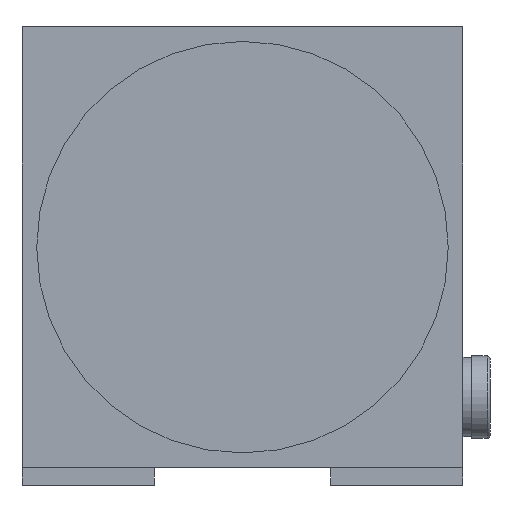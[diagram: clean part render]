
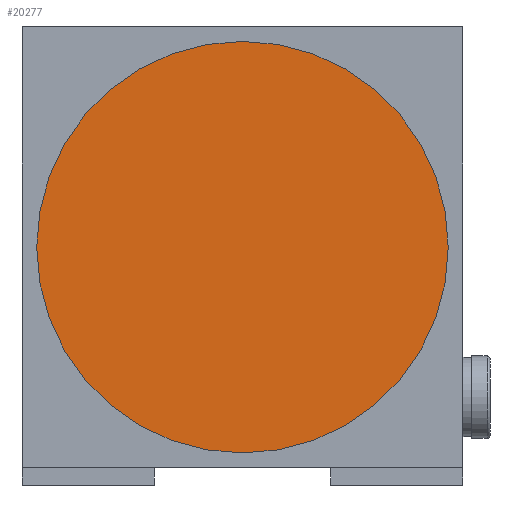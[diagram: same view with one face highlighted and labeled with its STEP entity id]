
A CAD part, front view. The second image highlights one B-rep face of the part: STEP entity #20277.
In plain terms, the highlighted planar face has unit normal (0, -1, 0).
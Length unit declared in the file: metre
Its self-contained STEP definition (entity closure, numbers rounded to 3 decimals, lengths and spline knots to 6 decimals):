
#130 = ORIENTED_EDGE ( 'NONE', *, *, #27360, .T. ) ;
#4867 = FACE_OUTER_BOUND ( 'NONE', #27000, .T. ) ;
#8514 = AXIS2_PLACEMENT_3D ( 'NONE', #10838, #23498, #8793 ) ;
#8793 = DIRECTION ( 'NONE',  ( 0., 0., -1. ) ) ;
#10406 = CARTESIAN_POINT ( 'NONE',  ( 0., 0.0006, 0. ) ) ;
#10838 = CARTESIAN_POINT ( 'NONE',  ( 0., 0.0006, 0. ) ) ;
#12847 = DIRECTION ( 'NONE',  ( 0., 0., -1. ) ) ;
#15775 = AXIS2_PLACEMENT_3D ( 'NONE', #10406, #27568, #12847 ) ;
#18327 = PLANE ( 'NONE',  #8514 ) ;
#19745 = VERTEX_POINT ( 'NONE', #22870 ) ;
#20277 = ADVANCED_FACE ( 'NONE', ( #4867 ), #18327, .T. ) ;
#22870 = CARTESIAN_POINT ( 'NONE',  ( 0., 0.0006, -0.035 ) ) ;
#23498 = DIRECTION ( 'NONE',  ( 0., -1., 0. ) ) ;
#25768 = CIRCLE ( 'NONE', #15775, 0.035 ) ;
#27000 = EDGE_LOOP ( 'NONE', ( #130 ) ) ;
#27360 = EDGE_CURVE ( 'NONE', #19745, #19745, #25768, .T. ) ;
#27568 = DIRECTION ( 'NONE',  ( 0., -1., 0. ) ) ;
